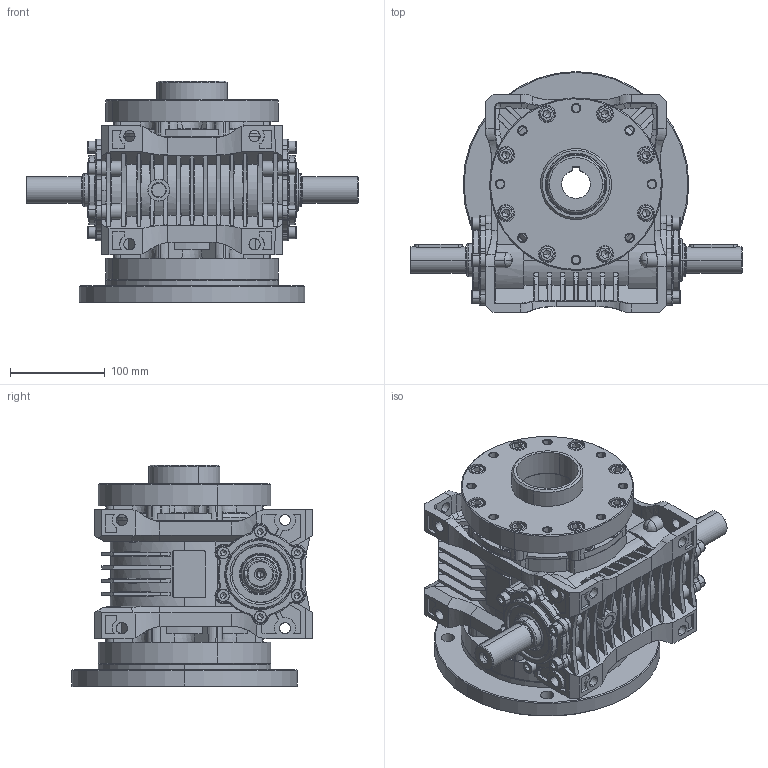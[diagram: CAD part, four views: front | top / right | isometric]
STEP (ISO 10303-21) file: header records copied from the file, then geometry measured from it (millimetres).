
FILE_DESCRIPTION (( 'STEP AP203' ), '1' );
FILE_NAME ('MRP-80_WBS2_SO-1_KM-1_3D.STEP', '2024-10-29T09:42:05', ( '' ), ( '' ), 'SwSTEP 2.0', 'SolidWorks 2022', '' );
FILE_SCHEMA (( 'CONFIG_CONTROL_DESIGN' ));
Products named in the file (1): MRP-80_WBS2_SO-1_KM-1_3D
Bounding box: 350 x 254 x 234 mm (x, y, z)
Volume: 6057510.7 mm3; surface area: 633174.1 mm2
Topology: 1 solids, 85 shells, 3373 faces, 8522 edges, 5355 vertices
Faces by surface type: plane 1395, cone 898, cylinder 697, torus 303, bspline 80
Entity records: 105924 total; most frequent: CARTESIAN_POINT 25686, DIRECTION 16997, ORIENTED_EDGE 16762, EDGE_CURVE 8381, AXIS2_PLACEMENT_3D 6500, VERTEX_POINT 5355, VECTOR 3997, LINE 3997
